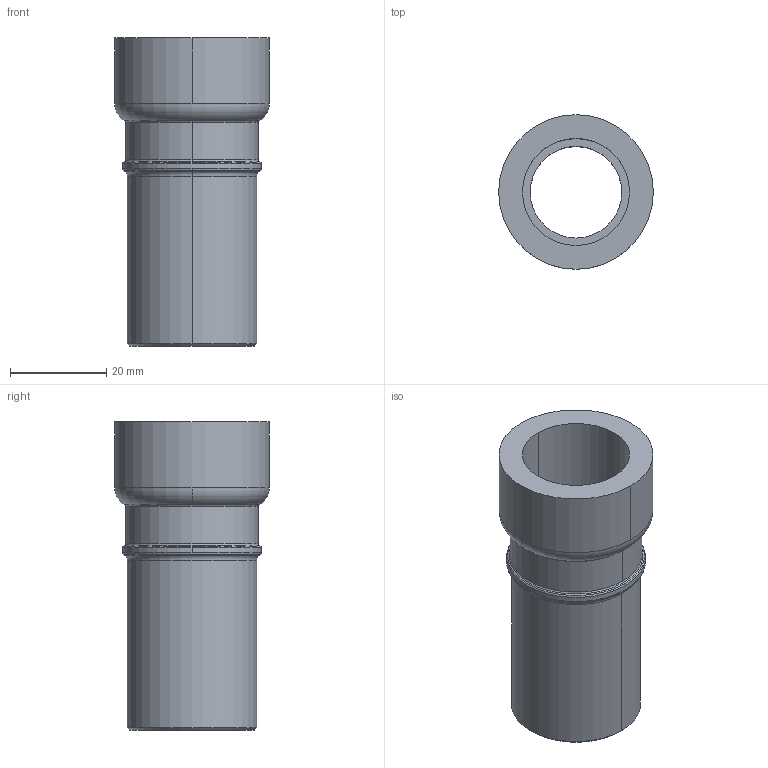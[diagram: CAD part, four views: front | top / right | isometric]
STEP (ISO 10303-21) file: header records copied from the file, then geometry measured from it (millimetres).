
FILE_DESCRIPTION(('Creo Elements/Direct Modeling STEP Export'),'2;1');
FILE_NAME('C9407_3-4_1-2.stp','2020-06-18T16:40:24',(''),(''),'PTC Creo Elements/Direct Modeling STEP processor for AP214 (Solid Model)','PTC Creo Elements/Direct Modeling 19.0C 15-Aug-2015 (C) Parametric Technology GmbH','');
FILE_SCHEMA(('AUTOMOTIVE_DESIGN { 1 0 10303 214 1 1 1 1 }'));
Length unit declared in the file: millimetre
Products named in the file (1): 9407_3-4_1-2
Bounding box: 32.05 x 32.05 x 63.94 mm (x, y, z)
Volume: 19291.3 mm3; surface area: 10713.5 mm2
Topology: 1 solids, 1 shells, 33 faces, 85 edges, 55 vertices
Faces by surface type: torus 12, cylinder 12, cone 6, plane 3
Entity records: 887 total; most frequent: ORIENTED_EDGE 170, DIRECTION 146, CARTESIAN_POINT 137, EDGE_CURVE 85, AXIS2_PLACEMENT_3D 64, VERTEX_POINT 55, EDGE_LOOP 36, FACE_OUTER_BOUND 33
